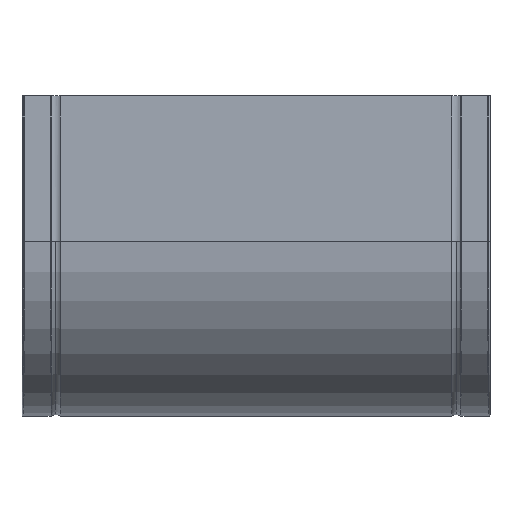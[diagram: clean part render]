
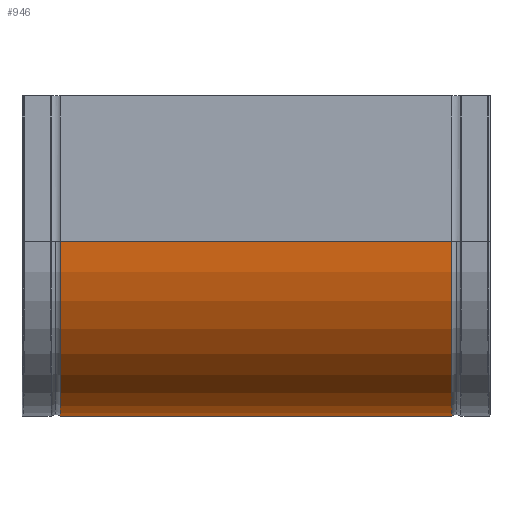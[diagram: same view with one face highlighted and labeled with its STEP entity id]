
A CAD part, front view. The second image highlights one B-rep face of the part: STEP entity #946.
In plain terms, the highlighted cylindrical face has radius 150 mm (diameter 300 mm), a partial arc.
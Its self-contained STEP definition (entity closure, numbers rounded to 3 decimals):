
#42 = CYLINDRICAL_SURFACE ( 'NONE', #2270, 150. ) ;
#254 = CARTESIAN_POINT ( 'NONE',  ( -168., 150., -275. ) ) ;
#334 = VERTEX_POINT ( 'NONE', #2555 ) ;
#383 = CARTESIAN_POINT ( 'NONE',  ( -168., 150., -275. ) ) ;
#422 = EDGE_CURVE ( 'NONE', #896, #1019, #2232, .T. ) ;
#424 = AXIS2_PLACEMENT_3D ( 'NONE', #2361, #1354, #1917 ) ;
#455 = DIRECTION ( 'NONE',  ( 0., 0., -1. ) ) ;
#521 = CIRCLE ( 'NONE', #2105, 150. ) ;
#619 = CARTESIAN_POINT ( 'NONE',  ( 168., 0., -125. ) ) ;
#621 = ORIENTED_EDGE ( 'NONE', *, *, #1721, .T. ) ;
#819 = CIRCLE ( 'NONE', #424, 150. ) ;
#822 = ORIENTED_EDGE ( 'NONE', *, *, #2630, .T. ) ;
#896 = VERTEX_POINT ( 'NONE', #1491 ) ;
#946 = ADVANCED_FACE ( 'NONE', ( #1286 ), #42, .T. ) ;
#1019 = VERTEX_POINT ( 'NONE', #619 ) ;
#1026 = ORIENTED_EDGE ( 'NONE', *, *, #2610, .F. ) ;
#1173 = VECTOR ( 'NONE', #1232, 1000. ) ;
#1184 = CARTESIAN_POINT ( 'NONE',  ( -168., 0., -125. ) ) ;
#1232 = DIRECTION ( 'NONE',  ( 1., 0., 0. ) ) ;
#1286 = FACE_OUTER_BOUND ( 'NONE', #1796, .T. ) ;
#1339 = VECTOR ( 'NONE', #2652, 1000. ) ;
#1354 = DIRECTION ( 'NONE',  ( 1., 0., 0. ) ) ;
#1435 = LINE ( 'NONE', #383, #1173 ) ;
#1491 = CARTESIAN_POINT ( 'NONE',  ( -168., 0., -125. ) ) ;
#1512 = VERTEX_POINT ( 'NONE', #254 ) ;
#1712 = CARTESIAN_POINT ( 'NONE',  ( -168., 150., -125. ) ) ;
#1721 = EDGE_CURVE ( 'NONE', #1512, #334, #1435, .T. ) ;
#1796 = EDGE_LOOP ( 'NONE', ( #2627, #822, #621, #1026 ) ) ;
#1894 = CARTESIAN_POINT ( 'NONE',  ( 0., 150., -125. ) ) ;
#1917 = DIRECTION ( 'NONE',  ( 0., 0., -1. ) ) ;
#1962 = DIRECTION ( 'NONE',  ( 1., 0., 0. ) ) ;
#2105 = AXIS2_PLACEMENT_3D ( 'NONE', #1712, #1962, #2163 ) ;
#2163 = DIRECTION ( 'NONE',  ( 0., 0., -1. ) ) ;
#2232 = LINE ( 'NONE', #1184, #1339 ) ;
#2270 = AXIS2_PLACEMENT_3D ( 'NONE', #1894, #2325, #455 ) ;
#2325 = DIRECTION ( 'NONE',  ( 1., 0., 0. ) ) ;
#2361 = CARTESIAN_POINT ( 'NONE',  ( 168., 150., -125. ) ) ;
#2555 = CARTESIAN_POINT ( 'NONE',  ( 168., 150., -275. ) ) ;
#2610 = EDGE_CURVE ( 'NONE', #1019, #334, #819, .T. ) ;
#2627 = ORIENTED_EDGE ( 'NONE', *, *, #422, .F. ) ;
#2630 = EDGE_CURVE ( 'NONE', #896, #1512, #521, .T. ) ;
#2652 = DIRECTION ( 'NONE',  ( 1., 0., 0. ) ) ;
